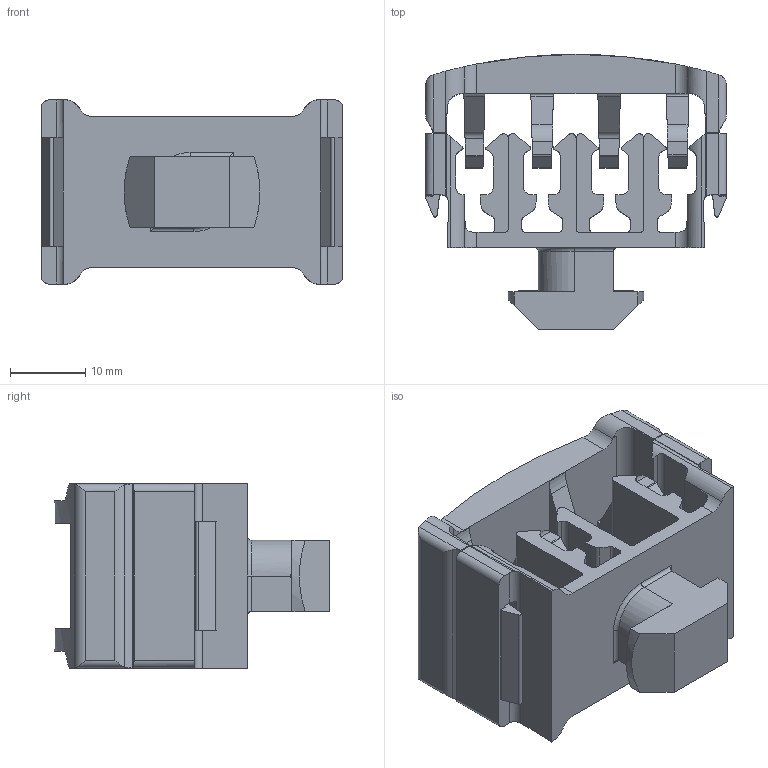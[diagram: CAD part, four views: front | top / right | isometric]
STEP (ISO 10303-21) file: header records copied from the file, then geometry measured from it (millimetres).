
FILE_DESCRIPTION(/* description */ ('STEP AP214'),/* implementation_level */ '2;1');
FILE_NAME(/* name */ '093610AN10',/* time_stamp */ '2023-08-29T08:41:47+02:00',/* author */ ('License CC BY-ND 4.0'),/* organization */ ('CADENAS'),/* preprocessor_version */ 'ST-DEVELOPER v19.3',/* originating_system */ 'PARTsolutions',/* authorisation */ ' ');
FILE_SCHEMA (('AUTOMOTIVE_DESIGN {1 0 10303 214 3 1 1}'));
Length unit declared in the file: millimetre
Products named in the file (1): 093610AN10
Bounding box: 40 x 36.56 x 24.52 mm (x, y, z)
Volume: 10358.7 mm3; surface area: 9798.1 mm2
Topology: 1 solids, 1 shells, 325 faces, 955 edges, 632 vertices
Faces by surface type: plane 168, cylinder 153, torus 2, sphere 2
Entity records: 10985 total; most frequent: CARTESIAN_POINT 2115, ORIENTED_EDGE 1910, DIRECTION 1849, EDGE_CURVE 955, VERTEX_POINT 632, AXIS2_PLACEMENT_3D 626, LINE 597, VECTOR 597
